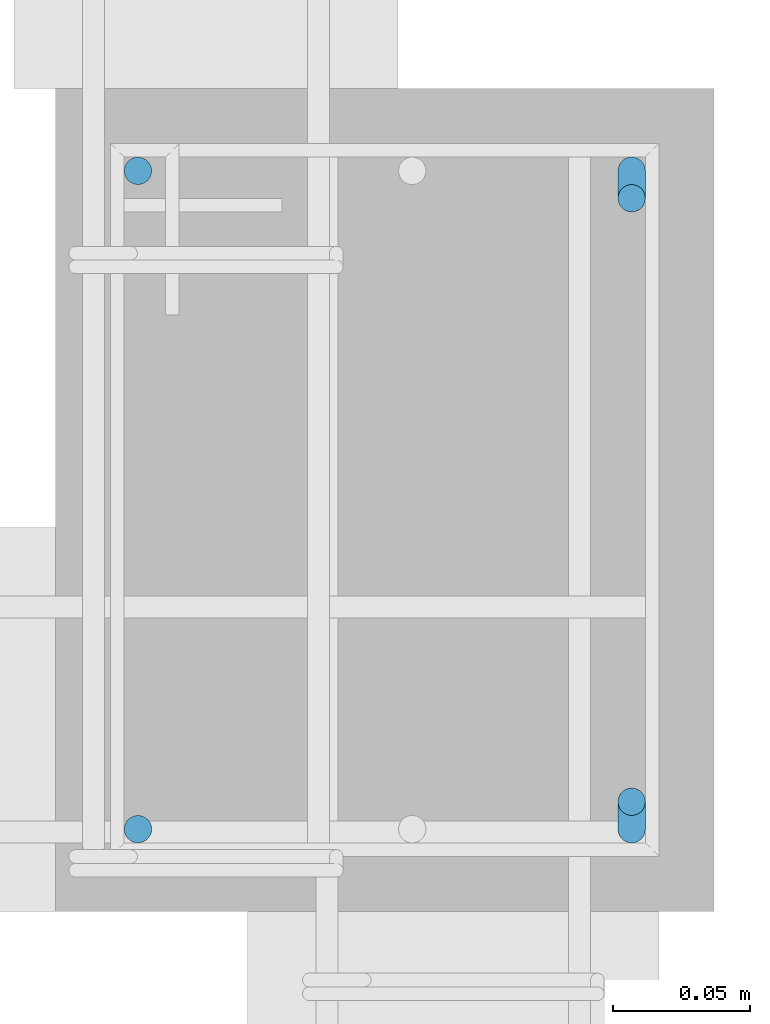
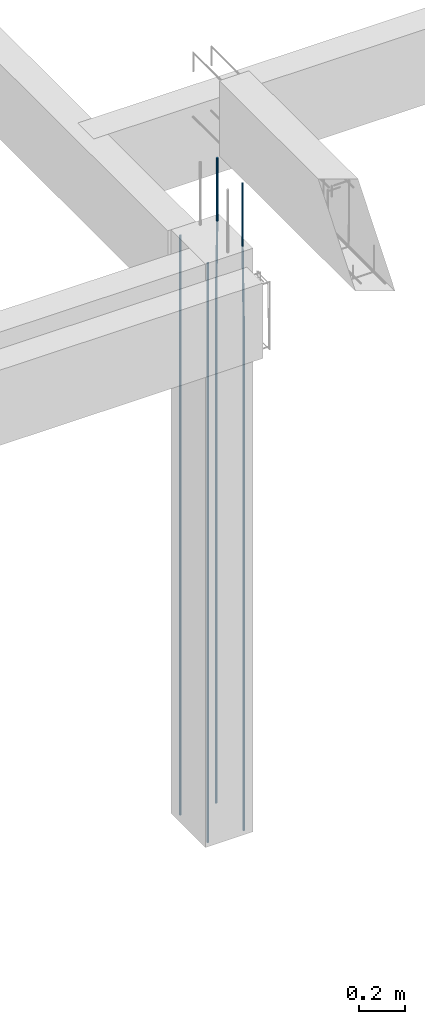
# One storey, part 93 of 236: 4 reinforcing bars.
"""IFC4 building model written with IfcOpenShell, lengths in centimetres."""

from ifc_helpers import new_model, entity, si_unit, derived_unit, frame, origin_with_axes, place, context, project, spatial, element, save


model = new_model("IFC4")

# Units and contexts
model_context = context("Model", 3, precision=1e-05, world=origin_with_axes(), identifier="Body")
ifc_project = project(units=[si_unit("LENGTHUNIT", "METRE", prefix="CENTI"), si_unit("VOLUMEUNIT", "CUBIC_METRE"), si_unit("AREAUNIT", "SQUARE_METRE"), si_unit("POWERUNIT", "WATT"), si_unit("LUMINOUSFLUXUNIT", "LUMEN"), si_unit("ELECTRICCURRENTUNIT", "AMPERE"), si_unit("PRESSUREUNIT", "PASCAL", prefix="KILO"), si_unit("MASSUNIT", "GRAM", prefix="KILO"), si_unit("PLANEANGLEUNIT", "RADIAN"), derived_unit("VOLUMETRICFLOWRATEUNIT", [(si_unit("LENGTHUNIT", "METRE"), 3), (si_unit("TIMEUNIT", "SECOND"), -1)])], contexts=[model_context])

# Site, building, storey
site_placement = place(None, frame((-4000.0, 0.0, 0.0), z_axis=(0.0, 0.0, 1.0), x_axis=(1.0, 0.0, 0.0)))
site = spatial("IfcSite", under=ifc_project, at=site_placement, Name="PADRÃO")
building_placement = place(site_placement, frame((0.0, 0.0, -14.0)))
building = spatial("IfcBuilding", under=site, at=building_placement, Name="CRECHE PRÉ-ESCOLA TIPO 2")
placement_1 = place(building_placement, origin_with_axes())
placement_2 = place(placement_1, frame((0.0, 0.0, 30.0), z_axis=(0.0, 0.0, 1.0), x_axis=(1.0, 0.0, 0.0)))
storey_placement = place(placement_2, frame((0.0, 0.0, 310.0), z_axis=(0.0, 0.0, 1.0), x_axis=(1.0, 0.0, 0.0)))
storey = spatial("IfcBuildingStorey", under=building, at=storey_placement, Name="TERREO", CompositionType="ELEMENT", Elevation=326.0)

# Reinforcing bars
for number, where, z_axis, x_axis, name in (
    (1, (3136.02, 2574.52, -2.0), (0.0, 0.0, 1.0), (1.0, 0.0, 0.0), "P74 - Longitudinal"),
    (2, (3136.02, 2598.52, -2.0), (0.0, 0.0, 1.0), (1.0, 0.0, 0.0), "P74 - Longitudinal"),
):
    element("IfcReinforcingBar", number, at=place(storey_placement, frame(where, z_axis=z_axis, x_axis=x_axis)), inside=storey, Name=name, BarLength=0.0, CrossSectionArea=7.853981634e-05, NominalDiameter=1.0, PredefinedType="MAIN", context=model_context, shape_type="AdvancedSweptSolid", body=[
        entity("IfcSweptDiskSolid", entity("IfcCompositeCurve", [entity("IfcCompositeCurveSegment", "CONTINUOUS", True, entity("IfcPolyline", [entity("IfcCartesianPoint", [0.0, 0.0, -308.0]), entity("IfcCartesianPoint", [0.0, 0.0, 0.0])]))], False), 0.5),
    ])
reinforcing_bar_1_placement = place(storey_placement, frame((3154.02, 2598.02, 33.3573001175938), z_axis=(0.0, 0.0, 1.0), x_axis=(1.0, 0.0, 0.0)))
element("IfcReinforcingBar", 3, at=reinforcing_bar_1_placement, inside=storey, Name="P74 - Longitudinal", BarLength=0.0, CrossSectionArea=7.853981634e-05, NominalDiameter=1.0, PredefinedType="MAIN", context=model_context, shape_type="AdvancedSweptSolid", body=[
    entity("IfcSweptDiskSolid", entity("IfcCompositeCurve", [entity("IfcCompositeCurveSegment", "CONTINUOUS", True, entity("IfcPolyline", [entity("IfcCartesianPoint", [0.0, 0.5, -343.357300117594]), entity("IfcCartesianPoint", [0.0, 0.5, -73.3573001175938])])), entity("IfcCompositeCurveSegment", "CONTINUOUS", True, entity("IfcPolyline", [entity("IfcCartesianPoint", [0.0, 0.5, -73.3573001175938]), entity("IfcCartesianPoint", [0.0, -0.5, -33.3573001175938])])), entity("IfcCompositeCurveSegment", "CONTINUOUS", True, entity("IfcPolyline", [entity("IfcCartesianPoint", [0.0, -0.5, -33.3573001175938]), entity("IfcCartesianPoint", [0.0, -0.5, 0.0])]))], False), 0.5),
])
reinforcing_bar_2_placement = place(storey_placement, frame((3154.02, 2575.02, 33.3573001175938), z_axis=(0.0, 0.0, 1.0), x_axis=(1.0, 0.0, 0.0)))
element("IfcReinforcingBar", 4, at=reinforcing_bar_2_placement, inside=storey, Name="P74 - Longitudinal", BarLength=0.0, CrossSectionArea=7.853981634e-05, NominalDiameter=1.0, PredefinedType="MAIN", context=model_context, shape_type="AdvancedSweptSolid", body=[
    entity("IfcSweptDiskSolid", entity("IfcCompositeCurve", [entity("IfcCompositeCurveSegment", "CONTINUOUS", True, entity("IfcPolyline", [entity("IfcCartesianPoint", [0.0, -0.5, -343.357300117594]), entity("IfcCartesianPoint", [0.0, -0.5, -73.3573001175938])])), entity("IfcCompositeCurveSegment", "CONTINUOUS", True, entity("IfcPolyline", [entity("IfcCartesianPoint", [0.0, -0.5, -73.3573001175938]), entity("IfcCartesianPoint", [0.0, 0.5, -33.3573001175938])])), entity("IfcCompositeCurveSegment", "CONTINUOUS", True, entity("IfcPolyline", [entity("IfcCartesianPoint", [0.0, 0.5, -33.3573001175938]), entity("IfcCartesianPoint", [0.0, 0.5, 0.0])]))], False), 0.5),
])

save(model, "model.ifc")
